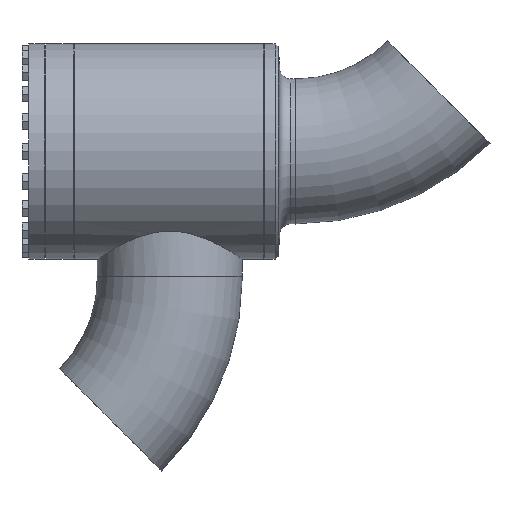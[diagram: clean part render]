
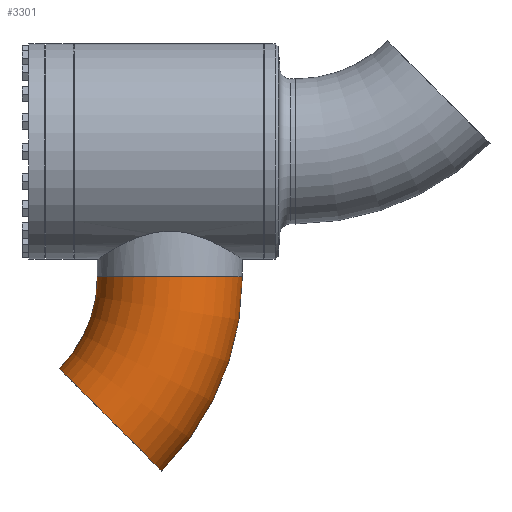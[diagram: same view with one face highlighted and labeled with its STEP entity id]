
A CAD part, left-side view. The second image highlights one B-rep face of the part: STEP entity #3301.
In plain terms, the highlighted toroidal (fillet/blend) face has major radius 381 mm and minor radius 136.5 mm.
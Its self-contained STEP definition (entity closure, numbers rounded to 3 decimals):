
#215 = FACE_OUTER_BOUND ( 'NONE', #3071, .T. ) ;
#216 = TOROIDAL_SURFACE ( 'NONE', #217, 381., 136.5 ) ;
#217 = AXIS2_PLACEMENT_3D ( 'NONE', #218, #219, #220 ) ;
#218 = CARTESIAN_POINT ( 'NONE',  ( 0., -381., 0. ) ) ;
#219 = DIRECTION ( 'NONE',  ( 0., 0., 1. ) ) ;
#220 = DIRECTION ( 'NONE',  ( 1., 0., 0. ) ) ;
#854 = CARTESIAN_POINT ( 'NONE',  ( 0., -136.5, 0. ) ) ;
#1930 = ORIENTED_EDGE ( 'NONE', *, *, #4238, .F. ) ;
#2170 = CARTESIAN_POINT ( 'NONE',  ( 0., 136.5, 0. ) ) ;
#2286 = CIRCLE ( 'NONE', #2287, 517.5 ) ;
#2287 = AXIS2_PLACEMENT_3D ( 'NONE', #2288, #2289, #2290 ) ;
#2288 = CARTESIAN_POINT ( 'NONE',  ( 0., -381., 0. ) ) ;
#2289 = DIRECTION ( 'NONE',  ( 0., 0., 1. ) ) ;
#2290 = DIRECTION ( 'NONE',  ( 1., 0., 0. ) ) ;
#2421 = ORIENTED_EDGE ( 'NONE', *, *, #4577, .F. ) ;
#3071 = EDGE_LOOP ( 'NONE', ( #2421, #1930, #4188, #4151 ) ) ;
#3301 = ADVANCED_FACE ( 'NONE', ( #215 ), #216, .T. ) ;
#4116 = EDGE_CURVE ( 'NONE', #4440, #4559, #4736, .T. ) ;
#4151 = ORIENTED_EDGE ( 'NONE', *, *, #4116, .T. ) ;
#4188 = ORIENTED_EDGE ( 'NONE', *, *, #4364, .T. ) ;
#4238 = EDGE_CURVE ( 'NONE', #5198, #5415, #5780, .T. ) ;
#4364 = EDGE_CURVE ( 'NONE', #5198, #4440, #8022, .T. ) ;
#4440 = VERTEX_POINT ( 'NONE', #854 ) ;
#4559 = VERTEX_POINT ( 'NONE', #2170 ) ;
#4577 = EDGE_CURVE ( 'NONE', #5415, #4559, #2286, .T. ) ;
#4736 = CIRCLE ( 'NONE', #4737, 136.5 ) ;
#4737 = AXIS2_PLACEMENT_3D ( 'NONE', #4738, #4739, #4742 ) ;
#4738 = CARTESIAN_POINT ( 'NONE',  ( 0., 0., 0. ) ) ;
#4739 = DIRECTION ( 'NONE',  ( 1., 0., 0. ) ) ;
#4742 = DIRECTION ( 'NONE',  ( 0., 0., -1. ) ) ;
#5198 = VERTEX_POINT ( 'NONE', #5702 ) ;
#5415 = VERTEX_POINT ( 'NONE', #5995 ) ;
#5702 = CARTESIAN_POINT ( 'NONE',  ( 172.888, -208.112, 0. ) ) ;
#5780 = CIRCLE ( 'NONE', #5781, 136.5 ) ;
#5781 = AXIS2_PLACEMENT_3D ( 'NONE', #5782, #5783, #5785 ) ;
#5782 = CARTESIAN_POINT ( 'NONE',  ( 269.408, -111.592, 0. ) ) ;
#5783 = DIRECTION ( 'NONE',  ( 0.707, -0.707, 0. ) ) ;
#5785 = DIRECTION ( 'NONE',  ( 0., 0., -1. ) ) ;
#5995 = CARTESIAN_POINT ( 'NONE',  ( 365.928, -15.072, 0. ) ) ;
#8022 = CIRCLE ( 'NONE', #8023, 244.5 ) ;
#8023 = AXIS2_PLACEMENT_3D ( 'NONE', #8024, #8025, #8026 ) ;
#8024 = CARTESIAN_POINT ( 'NONE',  ( 0., -381., 0. ) ) ;
#8025 = DIRECTION ( 'NONE',  ( 0., 0., 1. ) ) ;
#8026 = DIRECTION ( 'NONE',  ( 1., 0., 0. ) ) ;
